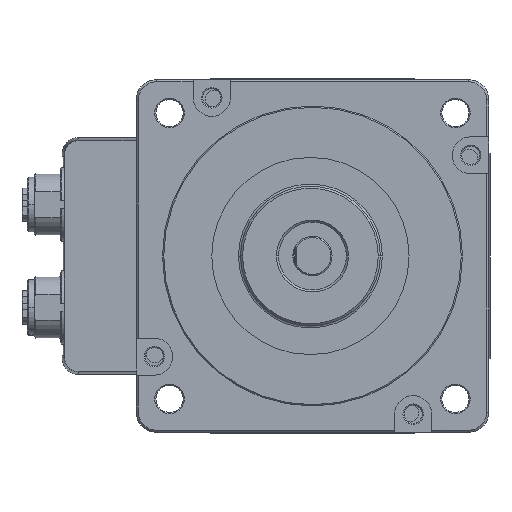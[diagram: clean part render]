
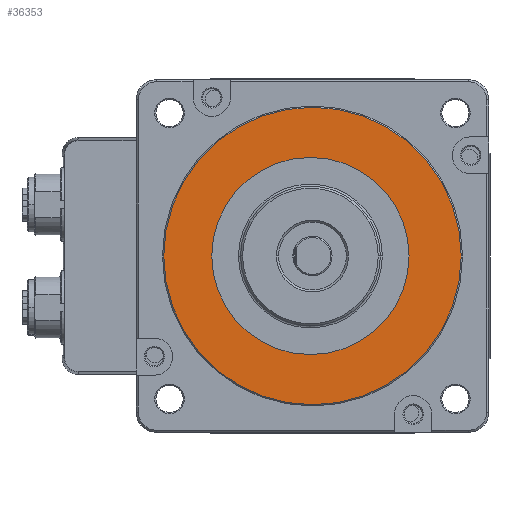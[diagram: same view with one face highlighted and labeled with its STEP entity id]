
A CAD part, left-side view. The second image highlights one B-rep face of the part: STEP entity #36353.
In plain terms, the highlighted planar face has unit normal (-1, 0, 0) as drawn and (0, -1, 0) by its records, which use the part's own axes.
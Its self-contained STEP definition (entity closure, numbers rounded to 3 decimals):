
#33607=CARTESIAN_POINT('',(46.966,-2.,63.564));
#33608=DIRECTION('',(0.,1.,0.));
#33609=DIRECTION('',(1.,0.,0.));
#33610=AXIS2_PLACEMENT_3D('',#33607,#33608,#33609);
#33615=CARTESIAN_POINT('',(46.966,-2.,63.564));
#33616=DIRECTION('',(0.,1.,0.));
#33617=DIRECTION('',(0.,0.,1.));
#33618=AXIS2_PLACEMENT_3D('',#33615,#33616,#33617);
#33623=CARTESIAN_POINT('',(46.966,-2.,63.564));
#33624=DIRECTION('',(0.,1.,0.));
#33625=DIRECTION('',(-1.,0.,0.));
#33626=AXIS2_PLACEMENT_3D('',#33623,#33624,#33625);
#33631=CARTESIAN_POINT('',(46.966,-2.,63.564));
#33632=DIRECTION('',(0.,1.,0.));
#33633=DIRECTION('',(0.,0.,-1.));
#33634=AXIS2_PLACEMENT_3D('',#33631,#33632,#33633);
#33639=CARTESIAN_POINT('',(46.966,-2.,64.064));
#33640=DIRECTION('',(0.,-1.,0.));
#33641=DIRECTION('',(0.,0.,1.));
#33642=AXIS2_PLACEMENT_3D('',#33639,#33640,#33641);
#33647=CARTESIAN_POINT('',(46.966,-2.,64.064));
#33648=DIRECTION('',(0.,-1.,0.));
#33649=DIRECTION('',(0.,0.,-1.));
#33650=AXIS2_PLACEMENT_3D('',#33647,#33648,#33649);
#35734=CARTESIAN_POINT('',(46.966,-2.,87.564));
#35736=VERTEX_POINT('',#35734);
#35738=CARTESIAN_POINT('',(46.966,-2.,39.564));
#35740=VERTEX_POINT('',#35738);
#35742=CARTESIAN_POINT('',(22.966,-2.,63.564));
#35743=VERTEX_POINT('',#35742);
#35744=CARTESIAN_POINT('',(70.966,-2.,63.564));
#35745=VERTEX_POINT('',#35744);
#35828=CARTESIAN_POINT('',(46.966,-2.,100.264));
#35829=CARTESIAN_POINT('',(46.966,-2.,27.864));
#35830=VERTEX_POINT('',#35828);
#35831=VERTEX_POINT('',#35829);
#36333=CARTESIAN_POINT('',(46.966,-2.,64.064));
#36334=DIRECTION('',(0.,1.,0.));
#36335=DIRECTION('',(0.,0.,1.));
#36336=AXIS2_PLACEMENT_3D('',#36333,#36334,#36335);
#36337=PLANE('',#36336);
#36338=ORIENTED_EDGE('',*,*,#36311,.F.);
#36340=ORIENTED_EDGE('',*,*,#36339,.F.);
#36341=EDGE_LOOP('',(#36338,#36340));
#36342=FACE_OUTER_BOUND('',#36341,.F.);
#36344=ORIENTED_EDGE('',*,*,#36343,.F.);
#36346=ORIENTED_EDGE('',*,*,#36345,.F.);
#36348=ORIENTED_EDGE('',*,*,#36347,.F.);
#36350=ORIENTED_EDGE('',*,*,#36349,.F.);
#36351=EDGE_LOOP('',(#36344,#36346,#36348,#36350));
#36352=FACE_BOUND('',#36351,.F.);
#33611=CIRCLE('',#33610,24.);
#33619=CIRCLE('',#33618,24.);
#33627=CIRCLE('',#33626,24.);
#33635=CIRCLE('',#33634,24.);
#33643=CIRCLE('',#33642,36.2);
#33651=CIRCLE('',#33650,36.2);
#36311=EDGE_CURVE('',#35830,#35831,#33643,.T.);
#36339=EDGE_CURVE('',#35831,#35830,#33651,.T.);
#36343=EDGE_CURVE('',#35745,#35740,#33611,.T.);
#36345=EDGE_CURVE('',#35736,#35745,#33619,.T.);
#36347=EDGE_CURVE('',#35743,#35736,#33627,.T.);
#36349=EDGE_CURVE('',#35740,#35743,#33635,.T.);
#36353=ADVANCED_FACE('',(#36342,#36352),#36337,.F.);
